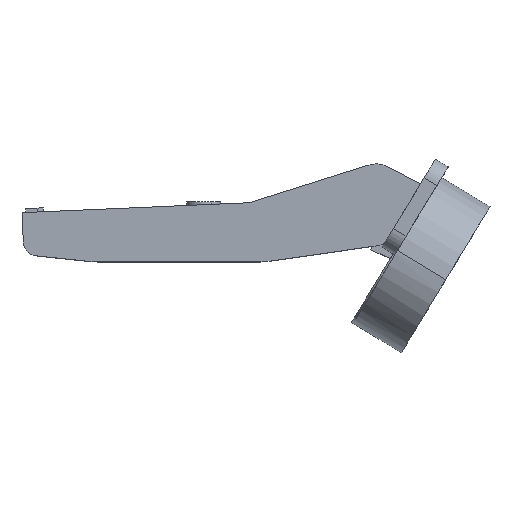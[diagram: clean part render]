
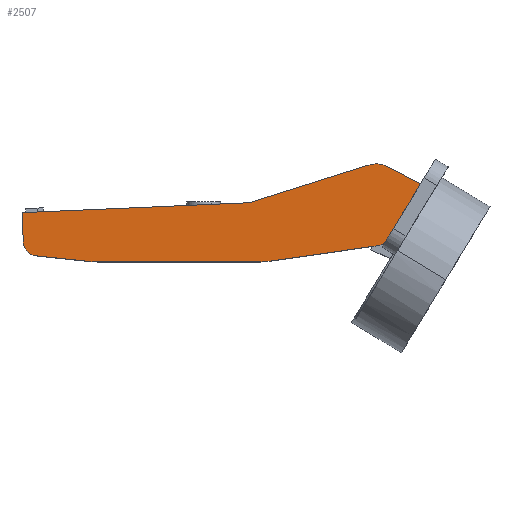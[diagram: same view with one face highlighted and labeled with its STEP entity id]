
A CAD part, top view. The second image highlights one B-rep face of the part: STEP entity #2507.
In plain terms, the highlighted planar face has unit normal (0, 0, 1).
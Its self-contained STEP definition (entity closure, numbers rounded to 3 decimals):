
#42 = LINE ( 'NONE', #2261, #2491 ) ;
#56 = CARTESIAN_POINT ( 'NONE',  ( -2.618, 12.272, 8.6 ) ) ;
#67 = EDGE_CURVE ( 'NONE', #2406, #401, #1726, .T. ) ;
#79 = DIRECTION ( 'NONE',  ( 1., 0., 0. ) ) ;
#91 = DIRECTION ( 'NONE',  ( 1., 0., 0. ) ) ;
#92 = DIRECTION ( 'NONE',  ( -1., 0., 0. ) ) ;
#102 = DIRECTION ( 'NONE',  ( 0., 0., -1. ) ) ;
#155 = EDGE_CURVE ( 'NONE', #2481, #1490, #590, .T. ) ;
#187 = ORIENTED_EDGE ( 'NONE', *, *, #1028, .F. ) ;
#200 = ORIENTED_EDGE ( 'NONE', *, *, #1556, .F. ) ;
#205 = DIRECTION ( 'NONE',  ( 1., 0., 0. ) ) ;
#216 = CARTESIAN_POINT ( 'NONE',  ( 22.148, 3.201, 8.6 ) ) ;
#218 = ORIENTED_EDGE ( 'NONE', *, *, #1643, .T. ) ;
#231 = VERTEX_POINT ( 'NONE', #1209 ) ;
#233 = CARTESIAN_POINT ( 'NONE',  ( 7.137, 0., 8.6 ) ) ;
#240 = EDGE_CURVE ( 'NONE', #1331, #2481, #2427, .T. ) ;
#266 = ORIENTED_EDGE ( 'NONE', *, *, #820, .F. ) ;
#309 = VECTOR ( 'NONE', #2008, 1000. ) ;
#310 = AXIS2_PLACEMENT_3D ( 'NONE', #1306, #456, #92 ) ;
#343 = VECTOR ( 'NONE', #205, 1000. ) ;
#348 = ORIENTED_EDGE ( 'NONE', *, *, #1959, .F. ) ;
#360 = DIRECTION ( 'NONE',  ( 0., 0., 1. ) ) ;
#385 = VERTEX_POINT ( 'NONE', #1294 ) ;
#401 = VERTEX_POINT ( 'NONE', #493 ) ;
#406 = LINE ( 'NONE', #1394, #1016 ) ;
#418 = EDGE_CURVE ( 'NONE', #1095, #682, #2305, .T. ) ;
#430 = CARTESIAN_POINT ( 'NONE',  ( -49.325, 4.098, 8.6 ) ) ;
#451 = VECTOR ( 'NONE', #1718, 1000. ) ;
#454 = VECTOR ( 'NONE', #2086, 1000. ) ;
#456 = DIRECTION ( 'NONE',  ( 0., 0., 1. ) ) ;
#483 = CIRCLE ( 'NONE', #2271, 3. ) ;
#488 = DIRECTION ( 'NONE',  ( 0., 0., 1. ) ) ;
#493 = CARTESIAN_POINT ( 'NONE',  ( -3.903, 12.045, 8.6 ) ) ;
#494 = DIRECTION ( 'NONE',  ( 0., 0., 1. ) ) ;
#503 = DIRECTION ( 'NONE',  ( 1., 0., 0. ) ) ;
#523 = EDGE_CURVE ( 'NONE', #385, #1567, #2383, .T. ) ;
#526 = CARTESIAN_POINT ( 'NONE',  ( -49.436, 6.652, 8.6 ) ) ;
#590 = CIRCLE ( 'NONE', #2431, 20. ) ;
#617 = CARTESIAN_POINT ( 'NONE',  ( 31.667, 15.923, 8.6 ) ) ;
#640 = ORIENTED_EDGE ( 'NONE', *, *, #240, .T. ) ;
#646 = DIRECTION ( 'NONE',  ( 1., 0., 0. ) ) ;
#682 = VERTEX_POINT ( 'NONE', #1981 ) ;
#717 = VECTOR ( 'NONE', #2150, 1000. ) ;
#783 = EDGE_CURVE ( 'NONE', #1846, #231, #42, .T. ) ;
#820 = EDGE_CURVE ( 'NONE', #1567, #1070, #1476, .T. ) ;
#853 = EDGE_CURVE ( 'NONE', #1070, #682, #931, .T. ) ;
#856 = ORIENTED_EDGE ( 'NONE', *, *, #67, .F. ) ;
#860 = CARTESIAN_POINT ( 'NONE',  ( 27.131, 8.45, 8.6 ) ) ;
#862 = EDGE_LOOP ( 'NONE', ( #2412, #266, #1098, #187, #200, #856, #2588, #2170, #1202, #218, #640, #1458, #348, #2552 ) ) ;
#898 = DIRECTION ( 'NONE',  ( 0., 0., 1. ) ) ;
#900 = AXIS2_PLACEMENT_3D ( 'NONE', #2483, #494, #79 ) ;
#931 = LINE ( 'NONE', #860, #451 ) ;
#939 = CARTESIAN_POINT ( 'NONE',  ( -3.903, 12.045, 8.6 ) ) ;
#988 = LINE ( 'NONE', #216, #309 ) ;
#1016 = VECTOR ( 'NONE', #1229, 1000. ) ;
#1025 = CARTESIAN_POINT ( 'NONE',  ( 22.148, 3.201, 8.6 ) ) ;
#1028 = EDGE_CURVE ( 'NONE', #2425, #385, #406, .T. ) ;
#1070 = VERTEX_POINT ( 'NONE', #617 ) ;
#1095 = VERTEX_POINT ( 'NONE', #1025 ) ;
#1098 = ORIENTED_EDGE ( 'NONE', *, *, #523, .F. ) ;
#1147 = CIRCLE ( 'NONE', #310, 30. ) ;
#1184 = AXIS2_PLACEMENT_3D ( 'NONE', #1842, #898, #91 ) ;
#1193 = CARTESIAN_POINT ( 'NONE',  ( -36.359, 0.164, 8.6 ) ) ;
#1202 = ORIENTED_EDGE ( 'NONE', *, *, #783, .F. ) ;
#1209 = CARTESIAN_POINT ( 'NONE',  ( -46.641, 1.245, 8.6 ) ) ;
#1229 = DIRECTION ( 'NONE',  ( 0.954, 0.301, 0. ) ) ;
#1260 = DIRECTION ( 'NONE',  ( -0.995, 0.105, 0. ) ) ;
#1294 = CARTESIAN_POINT ( 'NONE',  ( 21.127, 19.758, 8.6 ) ) ;
#1306 = CARTESIAN_POINT ( 'NONE',  ( -33.223, 30., 8.6 ) ) ;
#1331 = VERTEX_POINT ( 'NONE', #2137 ) ;
#1394 = CARTESIAN_POINT ( 'NONE',  ( -2.618, 12.272, 8.6 ) ) ;
#1401 = AXIS2_PLACEMENT_3D ( 'NONE', #1450, #488, #646 ) ;
#1450 = CARTESIAN_POINT ( 'NONE',  ( 24.723, 9.911, 8.6 ) ) ;
#1455 = CARTESIAN_POINT ( 'NONE',  ( -46.328, 4.229, 8.6 ) ) ;
#1458 = ORIENTED_EDGE ( 'NONE', *, *, #155, .T. ) ;
#1459 = CARTESIAN_POINT ( 'NONE',  ( -1.589, 0., 8.6 ) ) ;
#1476 = LINE ( 'NONE', #1825, #454 ) ;
#1490 = VERTEX_POINT ( 'NONE', #2175 ) ;
#1501 = AXIS2_PLACEMENT_3D ( 'NONE', #2313, #1724, #2515 ) ;
#1521 = VERTEX_POINT ( 'NONE', #430 ) ;
#1556 = EDGE_CURVE ( 'NONE', #401, #2425, #2509, .T. ) ;
#1567 = VERTEX_POINT ( 'NONE', #2100 ) ;
#1599 = VECTOR ( 'NONE', #1941, 1000. ) ;
#1633 = PLANE ( 'NONE',  #1401 ) ;
#1643 = EDGE_CURVE ( 'NONE', #1846, #1331, #1147, .T. ) ;
#1687 = EDGE_CURVE ( 'NONE', #231, #1521, #483, .T. ) ;
#1718 = DIRECTION ( 'NONE',  ( -0.519, -0.855, 0. ) ) ;
#1724 = DIRECTION ( 'NONE',  ( 0., 0., -1. ) ) ;
#1726 = LINE ( 'NONE', #939, #717 ) ;
#1796 = EDGE_CURVE ( 'NONE', #1521, #2406, #2314, .T. ) ;
#1825 = CARTESIAN_POINT ( 'NONE',  ( 24.94, 19.425, 8.6 ) ) ;
#1837 = CARTESIAN_POINT ( 'NONE',  ( -49.585, 10.05, 8.6 ) ) ;
#1842 = CARTESIAN_POINT ( 'NONE',  ( 20.727, 13.1, 8.6 ) ) ;
#1846 = VERTEX_POINT ( 'NONE', #1193 ) ;
#1911 = DIRECTION ( 'NONE',  ( 1., 0., 0. ) ) ;
#1941 = DIRECTION ( 'NONE',  ( -0.044, 0.999, 0. ) ) ;
#1959 = EDGE_CURVE ( 'NONE', #1095, #1490, #988, .T. ) ;
#1981 = CARTESIAN_POINT ( 'NONE',  ( 24.28, 3.752, 8.6 ) ) ;
#2008 = DIRECTION ( 'NONE',  ( -0.99, -0.142, 0. ) ) ;
#2086 = DIRECTION ( 'NONE',  ( 0.887, -0.462, 0. ) ) ;
#2100 = CARTESIAN_POINT ( 'NONE',  ( 24.94, 19.425, 8.6 ) ) ;
#2123 = CARTESIAN_POINT ( 'NONE',  ( -1.589, 20., 8.6 ) ) ;
#2137 = CARTESIAN_POINT ( 'NONE',  ( -33.223, 0., 8.6 ) ) ;
#2150 = DIRECTION ( 'NONE',  ( 0.999, 0.044, 0. ) ) ;
#2170 = ORIENTED_EDGE ( 'NONE', *, *, #1687, .F. ) ;
#2175 = CARTESIAN_POINT ( 'NONE',  ( 1.252, 0.203, 8.6 ) ) ;
#2261 = CARTESIAN_POINT ( 'NONE',  ( -39.213, 0.464, 8.6 ) ) ;
#2271 = AXIS2_PLACEMENT_3D ( 'NONE', #1455, #102, #503 ) ;
#2273 = FACE_OUTER_BOUND ( 'NONE', #862, .T. ) ;
#2305 = CIRCLE ( 'NONE', #1184, 10. ) ;
#2313 = CARTESIAN_POINT ( 'NONE',  ( 22.631, 14.99, 8.6 ) ) ;
#2314 = LINE ( 'NONE', #526, #1599 ) ;
#2383 = CIRCLE ( 'NONE', #1501, 5. ) ;
#2406 = VERTEX_POINT ( 'NONE', #1837 ) ;
#2412 = ORIENTED_EDGE ( 'NONE', *, *, #853, .F. ) ;
#2425 = VERTEX_POINT ( 'NONE', #56 ) ;
#2427 = LINE ( 'NONE', #233, #343 ) ;
#2431 = AXIS2_PLACEMENT_3D ( 'NONE', #2123, #360, #1911 ) ;
#2481 = VERTEX_POINT ( 'NONE', #1459 ) ;
#2483 = CARTESIAN_POINT ( 'NONE',  ( -4.121, 17.04, 8.6 ) ) ;
#2491 = VECTOR ( 'NONE', #1260, 1000. ) ;
#2507 = ADVANCED_FACE ( 'NONE', ( #2273 ), #1633, .T. ) ;
#2509 = CIRCLE ( 'NONE', #900, 5. ) ;
#2515 = DIRECTION ( 'NONE',  ( 1., 0., 0. ) ) ;
#2552 = ORIENTED_EDGE ( 'NONE', *, *, #418, .T. ) ;
#2588 = ORIENTED_EDGE ( 'NONE', *, *, #1796, .F. ) ;
